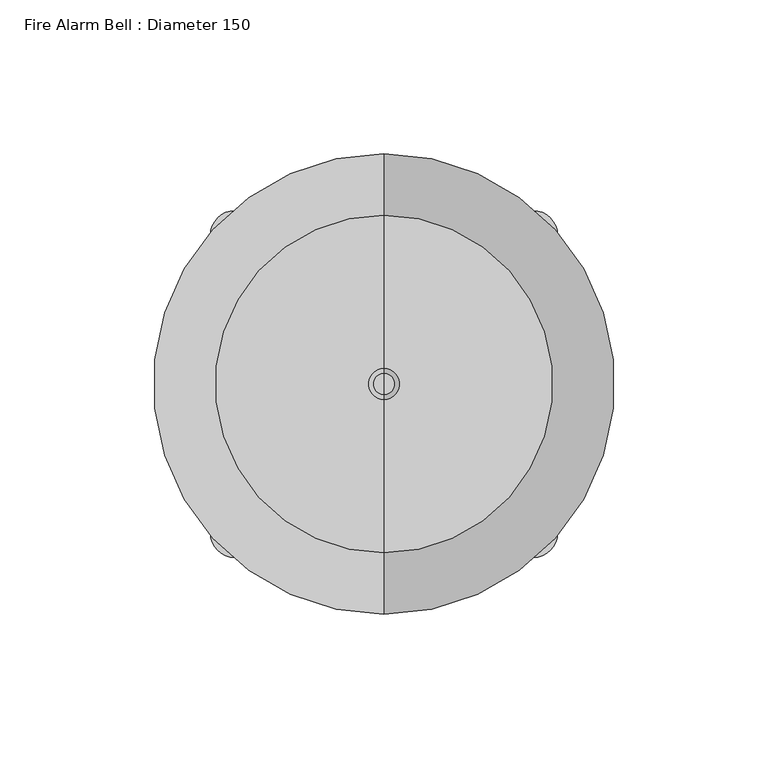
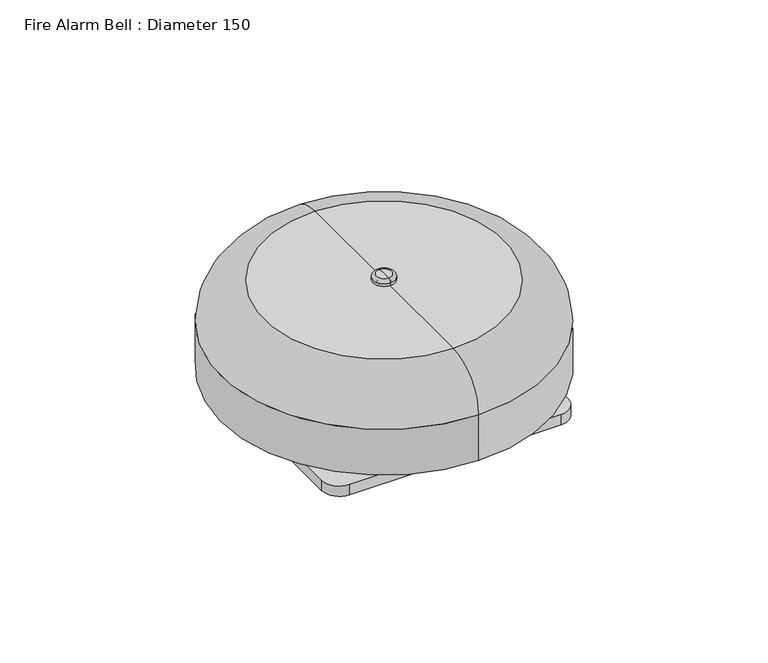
"""IFC4 building model written with IfcOpenShell, lengths in millimetres: alarm geometry, Fire Alarm Bell : Diameter 150."""

from ifc_helpers import new_model, si_unit, point, frame, frame_2d, origin, origin_with_axes, place, context, project, spatial, polyline, circle_curve, ellipse_curve, trimmed, segment, composite_curve, outline, extrude, source, transform, mapped, element, save
from ifc_brep_helpers import plane_surface, cylinder_surface, revolved_surface, advanced_brep


def fire_alarm_bell_diameter_150_d7b28a5b(model_context):
    return source(origin(), model_context, "Body", "SolidModel", [
        advanced_brep(
        [(3.0, 0.0, 50.0145667), (-3.0, 0.0, 50.0145667), (-3.0, 0.0, 51.5145667), (3.0, 0.0, 51.5145667), (0.0, 0.0, 50.0145667), (1.5, 0.0, 53.0145667), (-1.5, 0.0, 53.0145667), (0.0, 0.0, 53.0145667)],
        [
            (0, 1, circle_curve(frame((0.0, 0.0, 50.0145667), z_axis=(0.0, 0.0, 1.0), x_axis=(-1.0, 0.0, 0.0)), 3.0)),
            (1, 2),
            (2, 3, circle_curve(frame((0.0, 0.0, 51.5145667), z_axis=(0.0, 0.0, -1.0), x_axis=(-1.0, 0.0, 0.0)), 3.0)),
            (3, 0),
            (1, 0, circle_curve(frame((0.0, 0.0, 50.0145667), z_axis=(0.0, 0.0, 1.0), x_axis=(-1.0, 0.0, 0.0)), 3.0)),
            (3, 2, circle_curve(frame((0.0, 0.0, 51.5145667), z_axis=(0.0, 0.0, -1.0), x_axis=(-1.0, 0.0, 0.0)), 3.0)),
            (4, 1),
            (0, 4),
            (5, 6, circle_curve(frame((0.0, 0.0, 53.0145667), z_axis=(0.0, 0.0, 1.0), x_axis=(-1.0, 0.0, 0.0)), 1.5)),
            (6, 7),
            (7, 5),
            (6, 5, circle_curve(frame((0.0, 0.0, 53.0145667), z_axis=(0.0, 0.0, 1.0), x_axis=(-1.0, 0.0, 0.0)), 1.5)),
            (2, 6, circle_curve(frame((-1.5, 0.0, 51.5145667), z_axis=(0.0, 1.0, 0.0), x_axis=(1.0, 0.0, 0.0)), 1.5)),
            (5, 3, circle_curve(frame((1.5, 0.0, 51.5145667), z_axis=(0.0, 1.0, 0.0), x_axis=(-1.0, 0.0, 0.0)), 1.5)),
        ],
        [
            cylinder_surface(frame((0.0, 0.0, 53.364597), z_axis=(0.0, 0.0, -1.0), x_axis=(-1.0, 0.0, 0.0)), 3.0),
            plane_surface(frame((0.0, 0.0, 50.0145667), z_axis=(0.0, 0.0, -1.0), x_axis=(-1.0, 0.0, 0.0))),
            plane_surface(frame((0.0, 0.0, 53.0145667), z_axis=(0.0, 0.0, 1.0), x_axis=(-1.0, 0.0, 0.0))),
            revolved_surface(trimmed(ellipse_curve(frame((-1.5, 0.0, 51.5145667), z_axis=(0.0, -1.0, 0.0), x_axis=(1.0, 0.0, 0.0)), 1.5, 1.5), [point((-1.5, 0.0, 53.0145667))], [point((-3.0, 0.0, 51.5145667))], True, "CARTESIAN"), (0.0, 0.0, 53.364597), (0.0, 0.0, -1.0)),
        ],
        [
            (0, [[1, 2, 3, 4]]),
            (0, [[5, -4, 6, -2]]),
            (1, [[7, -1, 8]]),
            (1, [[-8, -5, -7]]),
            (2, [[9, 10, 11]]),
            (2, [[12, -11, -10]]),
            (3, [[-3, 13, -9, 14]]),
            (3, [[-6, -14, -12, -13]]),
        ],
    ),
        advanced_brep(
        [(0.0, 0.0, 47.0145667), (-9.3772543, 0.0, 47.0145667), (9.3772543, 0.0, 47.0145667), (9.3772543, 0.0, 50.0145667), (-9.3772543, 0.0, 50.0145667), (0.0, 0.0, 50.0145667)],
        [
            (0, 1),
            (1, 2, circle_curve(frame((0.0, 0.0, 47.0145667), z_axis=(0.0, 0.0, -1.0), x_axis=(-1.0, 0.0, 0.0)), 9.3772543)),
            (2, 0),
            (2, 1, circle_curve(frame((0.0, 0.0, 47.0145667), z_axis=(0.0, 0.0, -1.0), x_axis=(-1.0, 0.0, 0.0)), 9.3772543)),
            (3, 4, circle_curve(frame((0.0, 0.0, 50.0145667), z_axis=(0.0, 0.0, 1.0), x_axis=(-1.0, 0.0, 0.0)), 9.3772543)),
            (4, 5),
            (5, 3),
            (4, 3, circle_curve(frame((0.0, 0.0, 50.0145667), z_axis=(0.0, 0.0, 1.0), x_axis=(-1.0, 0.0, 0.0)), 9.3772543)),
            (1, 4),
            (3, 2),
        ],
        [
            plane_surface(frame((0.0, 0.0, 47.0145667), z_axis=(0.0, 0.0, -1.0), x_axis=(-1.0, 0.0, 0.0))),
            plane_surface(frame((0.0, 0.0, 50.0145667), z_axis=(0.0, 0.0, 1.0), x_axis=(-1.0, 0.0, 0.0))),
            cylinder_surface(frame((0.0, 0.0, 53.0145667), z_axis=(0.0, 0.0, -1.0), x_axis=(-1.0, 0.0, 0.0)), 9.3772543),
        ],
        [
            (0, [[1, 2, 3]]),
            (0, [[-3, 4, -1]]),
            (1, [[5, 6, 7]]),
            (1, [[8, -7, -6]]),
            (2, [[-2, 9, -5, 10]]),
            (2, [[-4, -10, -8, -9]]),
        ],
    ),
        advanced_brep(
        [(0.0, -55.0, 53.0145667), (0.0, 55.0, 53.0145667), (0.0, 75.0, 33.0145667), (0.0, -75.0, 33.0145667), (0.0, 0.0, 53.0145667), (0.0, -75.0, 10.8413284), (0.0, 75.0, 10.8413284), (0.0, 0.0, 10.8413284)],
        [
            (0, 1, circle_curve(frame((0.0, 0.0, 53.0145667), z_axis=(0.0, 0.0, -1.0), x_axis=(0.0, 1.0, 0.0)), 55.0)),
            (1, 2, circle_curve(frame((0.0, 55.0, 33.0145667), z_axis=(-1.0, 0.0, 0.0), x_axis=(0.0, 1.0, 0.0)), 20.0)),
            (2, 3, circle_curve(frame((0.0, 0.0, 33.0145667), z_axis=(0.0, 0.0, 1.0), x_axis=(0.0, 1.0, 0.0)), 75.0)),
            (3, 0, circle_curve(frame((0.0, -55.0, 33.0145667), z_axis=(-1.0, 0.0, 0.0), x_axis=(0.0, -1.0, 0.0)), 20.0)),
            (1, 0, circle_curve(frame((0.0, 0.0, 53.0145667), z_axis=(0.0, 0.0, -1.0), x_axis=(0.0, 1.0, 0.0)), 55.0)),
            (3, 2, circle_curve(frame((0.0, 0.0, 33.0145667), z_axis=(0.0, 0.0, 1.0), x_axis=(0.0, 1.0, 0.0)), 75.0)),
            (4, 1),
            (0, 4),
            (5, 6, circle_curve(frame((0.0, 0.0, 10.8413284), z_axis=(0.0, 0.0, -1.0), x_axis=(0.0, 1.0, 0.0)), 75.0)),
            (6, 7),
            (7, 5),
            (6, 5, circle_curve(frame((0.0, 0.0, 10.8413284), z_axis=(0.0, 0.0, -1.0), x_axis=(0.0, 1.0, 0.0)), 75.0)),
            (2, 6),
            (5, 3),
        ],
        [
            revolved_surface(trimmed(ellipse_curve(frame((0.0, 55.0, 33.0145667), z_axis=(1.0, 0.0, 0.0), x_axis=(0.0, 1.0, 0.0)), 20.0, 20.0), [point((0.0, 75.0, 33.0145667))], [point((0.0, 55.0, 53.0145667))], True, "CARTESIAN"), (0.0, 0.0, 7.9410253), (0.0, 0.0, 1.0)),
            plane_surface(frame((0.0, 0.0, 53.0145667), z_axis=(0.0, 0.0, 1.0), x_axis=(0.0, 1.0, 0.0))),
            plane_surface(frame((0.0, 0.0, 10.8413284), z_axis=(0.0, 0.0, -1.0), x_axis=(0.0, 1.0, 0.0))),
            cylinder_surface(frame((0.0, 0.0, 7.9410253), z_axis=(0.0, 0.0, 1.0), x_axis=(0.0, 1.0, 0.0)), 75.0),
        ],
        [
            (0, [[1, 2, 3, 4]]),
            (0, [[5, -4, 6, -2]]),
            (1, [[7, -1, 8]]),
            (1, [[-8, -5, -7]]),
            (2, [[9, 10, 11]]),
            (2, [[12, -11, -10]]),
            (3, [[-3, 13, -9, 14]]),
            (3, [[-6, -14, -12, -13]]),
        ],
    ),
        advanced_brep(
        [(0.0, -5.0179815, 53.0145667), (0.0, 5.0179815, 53.0145667), (0.0, 0.0, 53.0145667), (0.0, -5.0179815, 54.5115636), (0.0, 5.0179815, 54.5115636), (0.0, -3.5179815, 56.0115636), (0.0, 3.5179815, 56.0115636), (0.0, 0.0, 56.0115636)],
        [
            (0, 1, circle_curve(frame((0.0, 0.0, 53.0145667), z_axis=(0.0, 0.0, -1.0), x_axis=(0.0, 1.0, 0.0)), 5.0179815)),
            (1, 2),
            (2, 0),
            (1, 0, circle_curve(frame((0.0, 0.0, 53.0145667), z_axis=(0.0, 0.0, -1.0), x_axis=(0.0, 1.0, 0.0)), 5.0179815)),
            (3, 4, circle_curve(frame((0.0, 0.0, 54.5115636), z_axis=(0.0, 0.0, -1.0), x_axis=(0.0, 1.0, 0.0)), 5.0179815)),
            (4, 1),
            (0, 3),
            (4, 3, circle_curve(frame((0.0, 0.0, 54.5115636), z_axis=(0.0, 0.0, -1.0), x_axis=(0.0, 1.0, 0.0)), 5.0179815)),
            (5, 6, circle_curve(frame((0.0, 0.0, 56.0115636), z_axis=(0.0, 0.0, -1.0), x_axis=(0.0, 1.0, 0.0)), 3.5179815)),
            (6, 4, circle_curve(frame((0.0, 3.5179815, 54.5115636), z_axis=(-1.0, 0.0, 0.0), x_axis=(0.0, 1.0, 0.0)), 1.5)),
            (3, 5, circle_curve(frame((0.0, -3.5179815, 54.5115636), z_axis=(-1.0, 0.0, 0.0), x_axis=(0.0, -1.0, 0.0)), 1.5)),
            (6, 5, circle_curve(frame((0.0, 0.0, 56.0115636), z_axis=(0.0, 0.0, -1.0), x_axis=(0.0, 1.0, 0.0)), 3.5179815)),
            (7, 6),
            (5, 7),
        ],
        [
            plane_surface(frame((0.0, 0.0, 53.0145667), z_axis=(0.0, 0.0, -1.0), x_axis=(0.0, 1.0, 0.0))),
            cylinder_surface(frame((0.0, 0.0, 56.3770625), z_axis=(0.0, 0.0, 1.0), x_axis=(0.0, 1.0, 0.0)), 5.0179815),
            revolved_surface(trimmed(ellipse_curve(frame((0.0, 3.5179815, 54.5115636), z_axis=(1.0, 0.0, 0.0), x_axis=(0.0, 1.0, 0.0)), 1.5, 1.5), [point((0.0, 5.0179815, 54.5115636))], [point((0.0, 3.5179815, 56.0115636))], True, "CARTESIAN"), (0.0, 0.0, 56.3770625), (0.0, 0.0, 1.0)),
            plane_surface(frame((0.0, 0.0, 56.0115636), z_axis=(0.0, 0.0, 1.0), x_axis=(0.0, 1.0, 0.0))),
        ],
        [
            (0, [[1, 2, 3]]),
            (0, [[4, -3, -2]]),
            (1, [[5, 6, -1, 7]]),
            (1, [[8, -7, -4, -6]]),
            (2, [[9, 10, -5, 11]]),
            (2, [[12, -11, -8, -10]]),
            (3, [[13, -9, 14]]),
            (3, [[-14, -12, -13]]),
        ],
    ),
        extrude(outline(composite_curve([segment(polyline([(-45.0, -33.0), (-45.0, 33.0)]), True, "CONTINUOUS"), segment(trimmed(circle_curve(frame_2d((-37.0, 33.0)), 8.0), [point((-45.0, 33.0))], [point((-37.0, 41.0))], False, "CARTESIAN"), True, "CONTINUOUS"), segment(polyline([(-37.0, 41.0), (37.0, 41.0)]), True, "CONTINUOUS"), segment(trimmed(circle_curve(frame_2d((37.0, 33.0)), 8.0), [point((37.0, 41.0))], [point((45.0, 33.0))], False, "CARTESIAN"), True, "CONTINUOUS"), segment(polyline([(45.0, 33.0), (45.0, -33.0)]), True, "CONTINUOUS"), segment(trimmed(circle_curve(frame_2d((37.0, -33.0)), 8.0), [point((45.0, -33.0))], [point((37.0, -41.0))], False, "CARTESIAN"), True, "CONTINUOUS"), segment(polyline([(37.0, -41.0), (-37.0, -41.0)]), True, "CONTINUOUS"), segment(trimmed(circle_curve(frame_2d((-37.0, -33.0)), 8.0), [point((-37.0, -41.0))], [point((-45.0, -33.0))], False, "CARTESIAN"), True, "CONTINUOUS")], self_intersect=False)), frame((0.0, 0.0, 5.0154595), z_axis=(0.0, 0.0, 1.0), x_axis=(1.0, 0.0, 0.0)), (0.0, 0.0, 1.0), 5.8258689),
        extrude(outline(composite_curve([segment(polyline([(-56.4993538, -48.4983187), (-56.4993538, 48.4579663)]), True, "CONTINUOUS"), segment(trimmed(circle_curve(frame_2d((-48.4993538, 48.4579663)), 8.0), [point((-56.4993538, 48.4579663))], [point((-48.4993538, 56.4579663))], False, "CARTESIAN"), True, "CONTINUOUS"), segment(polyline([(-48.4993538, 56.4579663), (48.4993538, 56.4579663)]), True, "CONTINUOUS"), segment(trimmed(circle_curve(frame_2d((48.4993538, 48.4579663)), 8.0), [point((48.4993538, 56.4579663))], [point((56.4993538, 48.4579663))], False, "CARTESIAN"), True, "CONTINUOUS"), segment(polyline([(56.4993538, 48.4579663), (56.4993538, -48.4983187)]), True, "CONTINUOUS"), segment(trimmed(circle_curve(frame_2d((48.4993538, -48.4983187)), 8.0), [point((56.4993538, -48.4983187))], [point((48.4993538, -56.4983187))], False, "CARTESIAN"), True, "CONTINUOUS"), segment(polyline([(48.4993538, -56.4983187), (-48.4993538, -56.4983187)]), True, "CONTINUOUS"), segment(trimmed(circle_curve(frame_2d((-48.4993538, -48.4983187)), 8.0), [point((-48.4993538, -56.4983187))], [point((-56.4993538, -48.4983187))], False, "CARTESIAN"), True, "CONTINUOUS")], self_intersect=False)), origin_with_axes(), (0.0, 0.0, 1.0), 5.0154595),
    ])


if __name__ == "__main__":
    model = new_model("IFC4")
    model_context = context("Model", 3, world=origin())
    ifc_project = project(units=[si_unit("LENGTHUNIT", "METRE", prefix="MILLI")], contexts=[model_context])
    site = spatial("IfcSite", under=ifc_project)
    building = spatial("IfcBuilding", under=site)
    placement = place(None, origin())
    fire_alarm_bell_diameter_150_shape = fire_alarm_bell_diameter_150_d7b28a5b(model_context)
    element("IfcAlarm", 1, ObjectType="Fire Alarm Bell : Diameter 150", at=placement, inside=building, context=model_context, shape_type="MappedRepresentation", body=[
        mapped(fire_alarm_bell_diameter_150_shape, transform((0.0, 0.0, 0.0), x_axis=(1.0, 0.0, 0.0), y_axis=(0.0, 1.0, 0.0), z_axis=(0.0, 0.0, 1.0))),
    ])
    save(model, "model.ifc")
